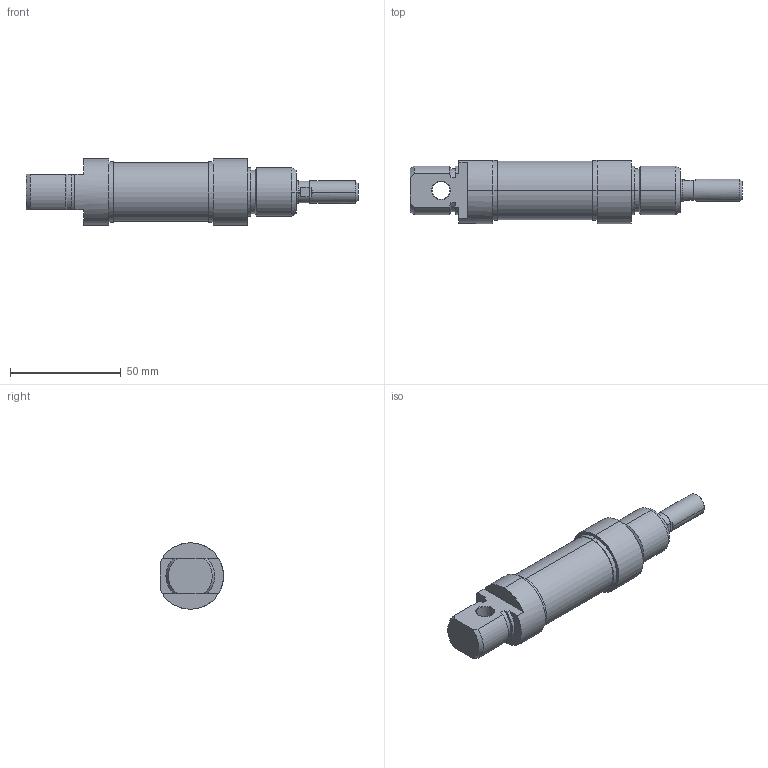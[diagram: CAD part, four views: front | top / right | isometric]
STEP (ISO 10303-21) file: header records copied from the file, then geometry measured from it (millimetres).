
FILE_DESCRIPTION (( 'STEP AP214' ), '1' );
FILE_NAME ('23_00702.STEP', '2017-01-04T07:29:21', ( '' ), ( '' ), 'SwSTEP 2.0', 'SolidWorks 2016', '' );
FILE_SCHEMA (( 'AUTOMOTIVE_DESIGN' ));
Length unit declared in the file: millimetre
Products named in the file (1): 23_00702
Bounding box: 150 x 28.5 x 30 mm (x, y, z)
Volume: 61397.2 mm3; surface area: 15798.5 mm2
Topology: 4 solids, 4 shells, 109 faces, 269 edges, 175 vertices
Faces by surface type: cylinder 45, plane 36, cone 26, bspline 2
Entity records: 4811 total; most frequent: CARTESIAN_POINT 918, DIRECTION 579, ORIENTED_EDGE 534, EDGE_CURVE 267, AXIS2_PLACEMENT_3D 232, VERTEX_POINT 175, CIRCLE 124, EDGE_LOOP 120
